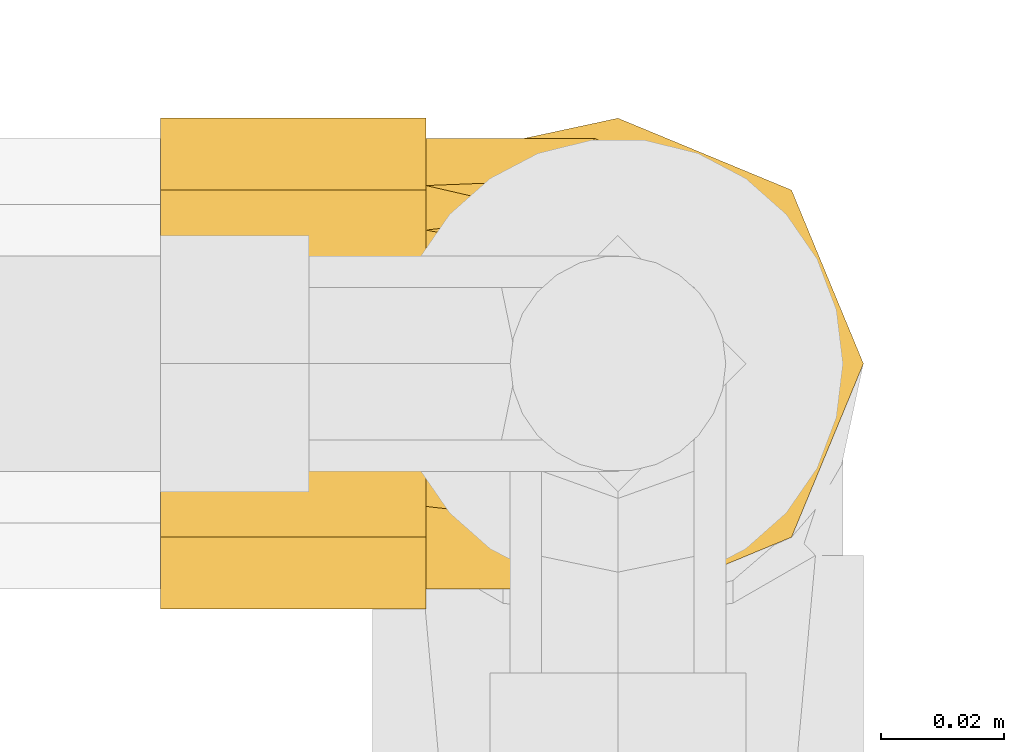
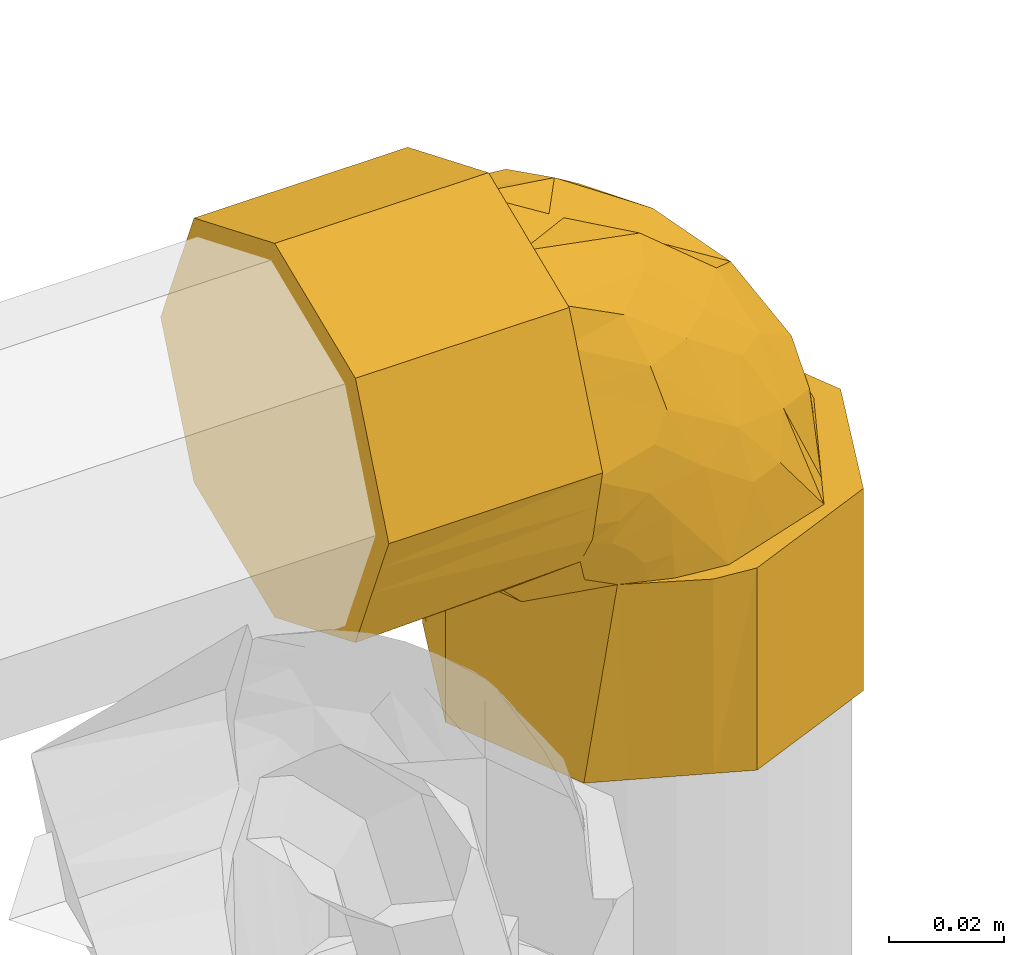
# One storey, part 268 of 652: 1 covering.
"""IFC2X3 building model written with IfcOpenShell, lengths in millimetres."""

from ifc_helpers import new_model, entity, si_unit, converted_unit, direction, frame, origin, place, context, subcontext, project, spatial, faceted_brep, material, type_object, element, save


model = new_model("IFC2X3")

# Units and contexts
model_context = context("Model", 3, precision=0.01, world=frame((0.0, 0.0, 308426.39999999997)), true_north=direction((6.123233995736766e-17, 1.0)))
plan_context = context("Plan", 3, precision=0.01, world=frame((0.0, 0.0, 308426.39999999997)), true_north=direction((6.123233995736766e-17, 1.0)))
body_context = subcontext(model_context, "Body", "Model", "MODEL_VIEW")
ifc_project = project(units=[si_unit("LENGTHUNIT", "METRE", prefix="MILLI"), si_unit("AREAUNIT", "SQUARE_METRE"), si_unit("VOLUMEUNIT", "CUBIC_METRE"), converted_unit("PLANEANGLEUNIT", "DEGREE", entity("IfcPlaneAngleMeasure", 0.017453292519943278), si_unit("PLANEANGLEUNIT", "RADIAN"), dimensions=[0, 0, 0, 0, 0, 0, 0])], contexts=[model_context, plan_context])

# Site, building, storey
site_placement = place(None, origin())
site = spatial("IfcSite", under=ifc_project, at=site_placement, Name="Default", CompositionType="ELEMENT")
building_placement = place(site_placement, origin())
building = spatial("IfcBuilding", under=site, at=building_placement, CompositionType="ELEMENT")
storey_placement = place(building_placement, frame((0.0, 0.0, 1730.6999999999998)))
storey = spatial("IfcBuildingStorey", under=building, at=storey_placement, Name="EG_Produktion_FFB", CompositionType="ELEMENT", Elevation=1730.6999999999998)

# Covering
ifc_material = material(Name="Dämmung - Armaflex-Schlauch")
covering_type = type_object("IfcCoveringType", Name="Rohrdämmung außen:Armaflex-Schlauch", PredefinedType="INSULATION")
covering_placement = place(storey_placement, frame((77805.91575000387, 69873.64672776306, 3941.353272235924)))
element("IfcCovering", 1, at=covering_placement, inside=storey, type_object=covering_type, material=ifc_material, Name="Rohrdämmung außen:Armaflex-Schlauch", ObjectType="Rohrdämmung außen:Armaflex-Schlauch", PredefinedType="INSULATION", context=body_context, shape_type="Brep", body=[
    faceted_brep([(43.00574999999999, 6.083537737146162, -55.29344606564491), (43.00574999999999, 5.617026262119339, -51.30566939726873), (43.00574999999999, 4.890772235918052, -45.09759303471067), (43.00574999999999, 8.3318644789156, -37.461729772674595), (43.00574999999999, 11.772956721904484, -29.82586651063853), (43.00574999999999, 14.999973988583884, -22.66504057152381), (43.00574999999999, 18.22699125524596, -15.504214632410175), (43.00574999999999, 29.790131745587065, -11.253230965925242), (43.00574999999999, 41.35327223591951, -7.002247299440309), (43.00574999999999, 48.56469745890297, -10.648721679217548), (43.00574999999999, 55.776122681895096, -14.295196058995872), (43.00574999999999, 62.98754790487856, -17.941670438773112), (43.00574999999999, 70.19897312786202, -21.588144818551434), (43.00574999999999, 72.58148097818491, -28.941817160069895), (43.00574999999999, 75.1986266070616, -37.01970509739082), (43.00574999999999, 77.81577223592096, -45.09759303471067), (43.00574999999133, 77.08951820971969, -51.305669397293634), (43.00574999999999, 76.62300673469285, -55.29344606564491), (43.00574999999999, 74.98470757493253, -60.125242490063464), (43.00574999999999, 73.34640841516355, -64.95703891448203), (43.00574999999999, 76.7834442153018, -57.33961263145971), (43.00574999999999, 80.22048001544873, -49.72218634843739), (43.00574999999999, 81.11127223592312, -41.35327223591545), (43.00574999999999, 77.79931566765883, -33.357501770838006), (43.00574999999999, 75.28884793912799, -27.29669653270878), (43.00574999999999, 72.37763579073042, -20.26840868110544), (43.00574999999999, 69.46642364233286, -13.240120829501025), (43.00574999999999, 62.43813579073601, -10.32890868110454), (43.00574999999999, 55.40984793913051, -7.417696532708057), (43.00574999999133, 48.38156008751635, -4.506484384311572), (43.00574999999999, 41.35327223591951, -1.5952722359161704), (43.00574999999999, 33.357501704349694, -4.90722883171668), (43.00574999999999, 27.296696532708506, -7.417696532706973), (43.00574999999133, 20.268408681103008, -10.32890868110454), (43.00574999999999, 13.240120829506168, -13.240120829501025), (43.00574999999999, 10.3289086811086, -20.268408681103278), (43.00574999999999, 7.417696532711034, -27.296696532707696), (43.00574999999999, 4.907228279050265, -33.35750303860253), (43.00574999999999, 1.5952722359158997, -41.35327223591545), (43.00574999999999, 3.3544466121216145, -49.52924681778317), (43.00574999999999, 5.113620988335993, -57.7052213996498), (43.00574999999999, 9.36013605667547, -64.95703891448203), (43.00574999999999, 7.721836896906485, -60.125242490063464), (0.0, 78.20006008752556, -48.381560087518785), (0.0, 75.28884793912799, -55.409847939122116), (0.0, 72.37763579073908, -62.438135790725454), (0.0, 69.46642364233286, -69.46642364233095), (0.0, 62.43813579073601, -72.37763579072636), (0.0, 55.40984793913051, -75.28884793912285), (0.0, 49.349042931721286, -77.79931557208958), (0.0, 41.35327223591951, -81.1112722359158), (0.0, 33.357503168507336, -77.79931624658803), (0.0, 27.296696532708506, -75.28884793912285), (0.0, 20.268408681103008, -72.37763579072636), (0.0, 13.240120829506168, -69.46642364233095), (0.0, 10.3289086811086, -62.438135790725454), (0.0, 7.417696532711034, -55.409847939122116), (0.0, 4.506484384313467, -48.381560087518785), (0.0, 1.5952722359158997, -41.35327223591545), (0.0, 4.506484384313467, -34.32498438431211), (0.0, 7.417696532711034, -27.296696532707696), (0.0, 10.3289086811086, -20.26840868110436), (0.0, 13.240120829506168, -13.240120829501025), (0.0, 20.26840868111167, -10.328908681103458), (0.0, 27.296696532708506, -7.417696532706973), (0.0, 34.32498438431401, -4.506484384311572), (0.0, 41.35327223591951, -1.5952722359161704), (0.0, 48.38156008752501, -4.506484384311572), (0.0, 55.40984793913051, -7.417696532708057), (0.0, 62.43813579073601, -10.32890868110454), (0.0, 69.46642364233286, -13.240120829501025), (0.0, 74.4873587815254, -25.36173053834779), (0.0, 77.79931550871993, -33.3575013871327), (0.0, 81.11127223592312, -41.35327223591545), (39.14313917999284, 66.6493605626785, -70.72483298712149), (32.887345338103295, 41.35327223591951, -81.1112722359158), (34.0839368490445, 50.65279247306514, -78.80194964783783), (35.28052835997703, 59.952312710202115, -76.49262705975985), (34.68223260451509, 55.30255259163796, -77.64728835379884), (39.14313917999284, 16.057183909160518, -70.72483298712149), (34.0839368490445, 32.053751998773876, -78.80194964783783), (35.28052835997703, 22.754231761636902, -76.49262705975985), (33.441725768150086, 37.04480775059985, -80.04136388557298), (74.08425000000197, 1.5952722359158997, -72.43177223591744), (82.0800204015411, 4.907228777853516, -72.43177223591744), (88.14082570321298, 7.417696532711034, -72.43177223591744), (95.16911355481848, 10.3289086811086, -72.43177223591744), (102.19740140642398, 13.240120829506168, -72.43177223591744), (105.10861355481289, 20.26840868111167, -72.43177223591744), (108.01982570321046, 27.296696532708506, -72.43177223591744), (110.53029398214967, 33.357503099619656, -72.43177223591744), (113.84225000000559, 41.35327223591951, -72.43177223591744), (110.53029355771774, 49.34904239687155, -72.43177223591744), (108.01982570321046, 55.40984793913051, -72.43177223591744), (105.10861355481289, 62.43813579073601, -72.43177223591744), (102.19740140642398, 69.46642364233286, -72.43177223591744), (95.16911355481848, 72.37763579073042, -72.43177223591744), (88.14082570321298, 75.28884793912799, -72.43177223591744), (81.11253785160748, 78.20006008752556, -72.43177223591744), (74.08425000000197, 81.11127223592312, -72.43177223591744), (65.90823846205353, 79.3520811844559, -72.43177223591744), (57.73222692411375, 77.59289013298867, -72.43177223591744), (50.48048332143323, 73.34640841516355, -72.43177223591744), (55.31227974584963, 74.98470757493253, -72.43177223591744), (60.14407617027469, 76.62300673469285, -72.43177223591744), (64.13185213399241, 77.08951812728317, -72.43177223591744), (67.23589066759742, 77.45264518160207, -72.43177223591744), (70.33992920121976, 77.81577223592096, -72.43177223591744), (77.74037965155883, 74.47922639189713, -72.43177223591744), (85.1408301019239, 71.1426805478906, -72.43177223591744), (92.5412805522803, 67.80613470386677, -72.43177223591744), (99.94173100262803, 64.4695888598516, -72.43177223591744), (102.06511698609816, 58.69050970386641, -72.43177223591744), (104.18850296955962, 52.911430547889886, -72.43177223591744), (108.4352749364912, 41.35327223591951, -72.43177223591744), (104.78589932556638, 34.139683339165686, -72.43177223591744), (101.1365237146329, 26.926094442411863, -72.43177223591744), (97.4871481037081, 19.712505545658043, -72.43177223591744), (93.83777249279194, 12.498916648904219, -72.43177223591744), (87.9633116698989, 10.596880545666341, -72.43177223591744), (82.08885084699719, 8.694844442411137, -72.43177223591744), (70.33992920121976, 4.890772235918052, -72.43177223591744), (67.23589066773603, 5.253899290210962, -72.43177223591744), (64.13185213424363, 5.617026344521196, -72.43177223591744), (60.14407617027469, 6.083537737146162, -72.43177223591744), (55.31227974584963, 7.721836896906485, -72.43177223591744), (50.48048332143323, 9.36013605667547, -72.43177223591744), (58.097888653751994, 5.923104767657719, -72.43177223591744), (65.71529398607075, 2.486073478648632, -72.43177223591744), (81.11253785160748, 78.20006008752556, -115.43752223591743), (88.14082570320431, 75.28884793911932, -115.43752223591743), (95.16911355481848, 72.37763579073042, -115.43752223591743), (102.19740140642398, 69.46642364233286, -115.43752223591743), (107.21833667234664, 57.34481362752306, -115.43752223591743), (110.53029333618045, 49.349042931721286, -115.43752223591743), (113.84225000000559, 41.35327223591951, -115.43752223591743), (110.93103785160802, 34.32498438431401, -115.43752223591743), (108.01982570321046, 27.296696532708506, -115.43752223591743), (105.10861355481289, 20.268408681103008, -115.43752223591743), (102.19740140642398, 13.240120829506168, -115.43752223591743), (95.16911355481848, 10.3289086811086, -115.43752223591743), (88.14082570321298, 7.417696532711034, -115.43752223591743), (81.11253785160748, 4.506484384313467, -115.43752223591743), (74.08425000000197, 1.5952722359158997, -115.43752223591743), (67.05596214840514, 4.506484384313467, -115.43752223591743), (60.02767429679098, 7.417696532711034, -115.43752223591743), (52.99938644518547, 10.3289086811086, -115.43752223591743), (45.971098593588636, 13.240120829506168, -115.43752223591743), (43.05988644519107, 20.26840868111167, -115.43752223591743), (40.1486742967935, 27.296696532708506, -115.43752223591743), (37.63820673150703, 33.35750137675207, -115.43752223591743), (34.32625000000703, 41.35327223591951, -115.43752223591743), (37.638205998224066, 49.34904132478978, -115.43752223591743), (40.14867429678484, 55.40984793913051, -115.43752223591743), (43.05988644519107, 62.43813579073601, -115.43752223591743), (45.971098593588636, 69.46642364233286, -115.43752223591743), (52.99938644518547, 72.37763579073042, -115.43752223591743), (60.02767429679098, 75.28884793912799, -115.43752223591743), (66.08847915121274, 77.7993155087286, -115.43752223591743), (74.08425000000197, 81.11127223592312, -115.43752223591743), (34.32624999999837, 41.35327223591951, -82.55017689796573), (36.63557258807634, 50.65279247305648, -81.3535853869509), (38.94489517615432, 59.95231271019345, -80.15699387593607), (36.466066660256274, 49.97020104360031, -81.44141605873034), (44.71268924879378, 66.6493605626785, -76.29438305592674), (44.71268924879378, 16.057183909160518, -76.29438305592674), (36.63557258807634, 32.05375199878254, -81.3535853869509), (38.94489517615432, 22.754231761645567, -80.15699387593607), (36.46606666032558, 32.736343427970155, -81.4414160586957), (35.39615833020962, 37.0448078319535, -81.99579647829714), (87.24641648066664, 70.58224481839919, -57.27123137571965), (59.264167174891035, 70.83707710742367, -29.193847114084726), (64.79374823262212, 74.32798861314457, -40.00181649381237), (54.444618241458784, 77.81577223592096, -51.665813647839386), (57.53690591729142, 77.00215070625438, -44.4278991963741), (69.53966351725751, 76.88875438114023, -55.10669322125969), (78.61751170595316, 68.42118911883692, -40.74524993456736), (63.635451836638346, 65.41959260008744, -24.864680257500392), (91.69909945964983, 41.35327223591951, -37.51558616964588), (97.09443549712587, 49.419286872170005, -46.80160812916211), (80.91983021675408, 49.772731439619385, -27.552566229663), (55.17908736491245, 41.35327223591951, -14.63058201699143), (61.704602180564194, 50.77782717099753, -14.912364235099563), (81.91303386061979, 62.1795598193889, -36.22272357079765), (68.51539346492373, 77.81577223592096, -70.04816151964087), (66.69085772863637, 77.81577223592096, -67.66455080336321), (63.04178625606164, 77.81577223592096, -62.897329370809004), (58.74320224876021, 77.81577223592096, -57.281571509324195), (92.25168823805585, 65.51319346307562, -54.94336486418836), (71.24462333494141, 59.20066225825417, -24.559357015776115), (57.411109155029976, 60.21657287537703, -17.330981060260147), (92.66741072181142, 58.18811212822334, -45.836129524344), (84.61256912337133, 55.84987819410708, -33.94288682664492), (100.06718719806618, 41.35327223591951, -54.97367920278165), (100.62176107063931, 41.35327223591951, -56.13067021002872), (67.3524247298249, 41.35327223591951, -22.258916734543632), (73.31662804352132, 41.35327223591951, -25.996342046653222), (79.52576209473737, 41.35327223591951, -29.887251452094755), (100.50080532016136, 55.74445137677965, -57.752906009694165), (78.60353708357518, 73.7993394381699, -53.091887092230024), (58.161189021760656, 41.35327223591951, -16.499294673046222), (48.25776996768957, 77.81577223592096, -48.11331321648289), (48.611422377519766, 77.16648559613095, -55.88980313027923), (47.90470472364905, 75.95462844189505, -61.14799943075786), (33.63371593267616, 41.35327223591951, -81.80380630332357), (51.459156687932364, 76.0357200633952, -63.97836606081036), (44.908883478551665, 71.49570768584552, -70.52863846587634), (54.28952252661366, 75.95462822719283, -67.53281820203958), (59.518701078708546, 77.15152320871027, -66.92088050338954), (48.611422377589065, 5.540058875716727, -55.88980313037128), (48.25776996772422, 4.890772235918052, -48.11331321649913), (44.90888338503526, 11.210837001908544, -70.52863882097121), (51.459155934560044, 6.670824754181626, -63.978366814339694), (47.90470469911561, 6.7519160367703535, -61.14799943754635), (58.743202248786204, 4.890772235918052, -57.281571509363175), (54.28952251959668, 6.7519162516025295, -67.53281822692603), (59.51870107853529, 5.555021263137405, -66.92088050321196), (66.69085772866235, 4.890772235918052, -67.66455080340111), (54.444618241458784, 4.890772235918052, -51.665813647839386), (68.51539346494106, 4.890772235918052, -70.04816151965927), (63.041786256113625, 4.890772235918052, -62.897329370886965), (59.61186262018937, 7.90055709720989, -37.54867793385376), (58.14792793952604, 11.144292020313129, -29.753616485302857), (76.41301603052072, 6.907352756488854, -58.23539538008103), (83.37405497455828, 31.821832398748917, -30.21968406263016), (79.87091005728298, 16.763579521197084, -38.43788537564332), (74.44381850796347, 9.117077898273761, -47.15067212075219), (86.90253298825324, 14.598856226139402, -50.85120006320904), (66.09863101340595, 5.892051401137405, -50.71304963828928), (55.98858201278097, 5.886693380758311, -42.398132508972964), (67.81026209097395, 15.338625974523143, -29.782072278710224), (86.6462536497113, 22.521459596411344, -39.604136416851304), (98.35278997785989, 31.617498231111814, -49.78456672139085), (96.79734628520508, 22.69544496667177, -54.986101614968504), (83.33506495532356, 9.61944594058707, -58.13081411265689), (64.80279365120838, 24.56861790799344, -19.784818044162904), (74.76137203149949, 21.067876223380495, -29.107014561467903), (55.99524376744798, 16.734184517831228, -21.4189015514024), (68.64794002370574, 33.08278710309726, -18.40551201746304)], [[[0, 1, 2, 3, 4, 5, 6, 7, 8, 9, 10, 11, 12, 13, 14, 15, 16, 17, 18, 19, 20, 21, 22, 23, 24, 25, 26, 27, 28, 29, 30, 31, 32, 33, 34, 35, 36, 37, 38, 39, 40, 41, 42]], [[43, 44, 45, 46, 47, 48, 49, 50, 51, 52, 53, 54, 55, 56, 57, 58, 59, 60, 61, 62, 63, 64, 65, 66, 67, 68, 69, 70, 71, 72, 73]], [[47, 46, 74]], [[75, 50, 49]], [[76, 75, 49]], [[48, 77, 78, 76]], [[47, 74, 77]], [[44, 20, 45]], [[43, 21, 44]], [[46, 19, 74]], [[77, 48, 47]], [[44, 21, 20]], [[43, 22, 21]], [[48, 76, 49]], [[43, 73, 22]], [[45, 20, 19]], [[19, 46, 45]], [[23, 22, 73, 72, 71, 70, 26, 25, 24]], [[26, 70, 69, 68, 67, 66, 30, 29, 28, 27]], [[38, 37, 36, 35, 34, 62, 61, 60, 59, 58]], [[30, 66, 65, 64, 63, 62, 34, 33, 32, 31]], [[56, 40, 39]], [[53, 79, 54]], [[39, 57, 56]], [[41, 55, 54]], [[40, 55, 41]], [[80, 52, 51]], [[52, 80, 81]], [[58, 57, 38]], [[51, 75, 82, 80]], [[38, 57, 39]], [[79, 53, 81]], [[55, 40, 56]], [[51, 50, 75]], [[53, 52, 81]], [[79, 41, 54]], [[83, 84, 85, 86, 87, 88, 89, 90, 91, 92, 93, 94, 95, 96, 97, 98, 99, 100, 101, 102, 103, 104, 105, 106, 107, 108, 109, 110, 111, 112, 113, 114, 115, 116, 117, 118, 119, 120, 121, 122, 123, 124, 125, 126, 127, 128]], [[129, 130, 131, 132, 133, 134, 135, 136, 137, 138, 139, 140, 141, 142, 143, 144, 145, 146, 147, 148, 149, 150, 151, 152, 153, 154, 155, 156, 157, 158, 159]], [[135, 134, 133, 132, 95, 94, 93, 92, 91]], [[95, 132, 131, 130, 129, 159, 99, 98, 97, 96]], [[159, 158, 157, 100]], [[101, 156, 102]], [[99, 159, 100]], [[101, 100, 157]], [[152, 151, 160]], [[102, 156, 155]], [[153, 161, 162]], [[161, 153, 152]], [[152, 160, 163, 161]], [[154, 164, 155]], [[164, 154, 162]], [[156, 101, 157]], [[154, 153, 162]], [[164, 102, 155]], [[148, 147, 165]], [[149, 166, 150]], [[166, 149, 167]], [[160, 151, 150]], [[148, 165, 167]], [[145, 127, 146]], [[144, 128, 145]], [[147, 126, 165]], [[167, 149, 148]], [[145, 128, 127]], [[144, 83, 128]], [[150, 166, 168, 169, 160]], [[144, 143, 83]], [[146, 127, 126]], [[126, 147, 146]], [[91, 90, 89, 88, 87, 139, 138, 137, 136, 135]], [[141, 140, 139, 87, 86, 85, 84, 83, 143, 142]], [[109, 170, 110]], [[13, 171, 172]], [[14, 13, 172]], [[173, 174, 175]], [[176, 171, 177]], [[15, 14, 174]], [[178, 179, 180]], [[9, 181, 182]], [[172, 175, 174]], [[13, 12, 171]], [[12, 11, 177]], [[176, 177, 183]], [[175, 107, 184, 185, 186, 187, 173]], [[188, 170, 176]], [[176, 172, 171]], [[189, 190, 182]], [[11, 10, 190]], [[177, 11, 190]], [[170, 188, 110]], [[191, 183, 192]], [[179, 178, 193, 194]], [[182, 190, 10]], [[189, 182, 180]], [[177, 190, 189]], [[182, 10, 9]], [[182, 195, 180]], [[177, 189, 183]], [[177, 171, 12]], [[180, 195, 196, 197, 178]], [[113, 179, 194]], [[112, 111, 198, 113]], [[198, 111, 188]], [[194, 114, 113]], [[179, 191, 192]], [[199, 175, 172]], [[199, 108, 175]], [[172, 176, 199]], [[188, 111, 110]], [[199, 170, 109]], [[183, 188, 176]], [[108, 199, 109]], [[188, 191, 198]], [[108, 107, 175]], [[176, 170, 199]], [[192, 189, 180]], [[188, 183, 191]], [[189, 192, 183]], [[179, 192, 180]], [[181, 9, 8]], [[182, 181, 200, 195]], [[191, 179, 198]], [[179, 113, 198]], [[174, 173, 201, 15]], [[172, 174, 14]], [[173, 202, 201]], [[173, 187, 203]], [[18, 203, 19]], [[201, 17, 16, 15]], [[204, 76, 163]], [[74, 164, 162, 77]], [[163, 76, 78, 77, 162, 161]], [[205, 102, 206]], [[206, 164, 74]], [[106, 105, 104, 185, 184, 107]], [[205, 207, 102]], [[186, 185, 208, 187]], [[204, 75, 76]], [[163, 160, 204]], [[205, 206, 19]], [[164, 206, 102]], [[203, 205, 19]], [[19, 206, 74]], [[201, 202, 17]], [[17, 202, 18]], [[203, 202, 173]], [[18, 202, 203]], [[102, 207, 103]], [[103, 208, 104]], [[207, 205, 187]], [[208, 103, 207]], [[208, 185, 104]], [[187, 208, 207]], [[203, 187, 205]], [[204, 160, 169]], [[209, 210, 0]], [[169, 168, 166, 167, 81, 80, 82]], [[41, 211, 212]], [[1, 0, 210, 2]], [[213, 212, 214]], [[204, 169, 82]], [[79, 165, 211]], [[126, 125, 215]], [[212, 211, 126]], [[204, 82, 75]], [[167, 165, 79, 81]], [[216, 124, 217]], [[218, 209, 213]], [[122, 121, 219, 217, 124, 123]], [[41, 79, 211]], [[211, 165, 126]], [[209, 0, 42]], [[125, 124, 216]], [[126, 215, 212]], [[125, 216, 215]], [[220, 214, 216, 217]], [[213, 42, 41]], [[212, 213, 41]], [[210, 209, 218]], [[214, 212, 215]], [[209, 42, 213]], [[215, 216, 214]], [[218, 213, 214]], [[4, 221, 222]], [[223, 121, 120]], [[224, 178, 197, 196]], [[225, 226, 227]], [[228, 226, 221]], [[229, 218, 228]], [[222, 226, 230]], [[231, 232, 224]], [[3, 229, 221]], [[233, 232, 231]], [[234, 223, 120]], [[229, 2, 210, 218]], [[224, 235, 236]], [[4, 3, 221]], [[228, 218, 214, 220, 217, 219, 121]], [[237, 222, 230]], [[6, 235, 7]], [[235, 6, 237]], [[238, 200, 7]], [[228, 223, 226]], [[224, 238, 235]], [[234, 226, 223]], [[227, 117, 233]], [[193, 232, 115]], [[224, 232, 178]], [[115, 114, 194, 193]], [[235, 237, 236]], [[238, 224, 196]], [[226, 222, 221]], [[222, 237, 5]], [[5, 237, 6]], [[5, 4, 222]], [[237, 230, 236]], [[7, 200, 181, 8]], [[7, 235, 238]], [[238, 196, 195, 200]], [[227, 118, 117]], [[193, 178, 232]], [[231, 236, 225]], [[233, 117, 116]], [[232, 233, 116]], [[227, 233, 231]], [[229, 3, 2]], [[228, 221, 229]], [[121, 223, 228]], [[119, 118, 234, 120]], [[234, 118, 227]], [[227, 226, 234]], [[232, 116, 115]], [[225, 236, 230]], [[224, 236, 231]], [[226, 225, 230]], [[231, 225, 227]]]),
])

save(model, "model.ifc")
